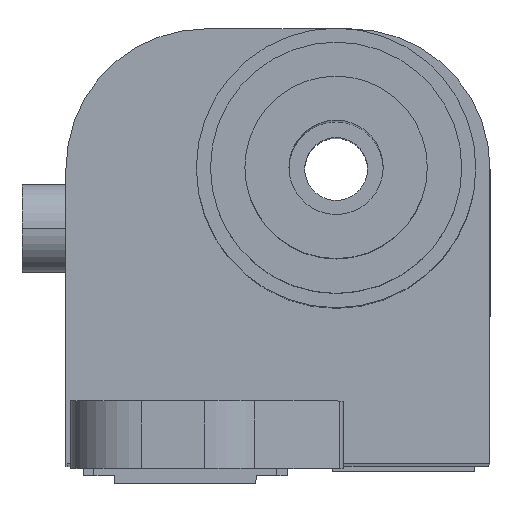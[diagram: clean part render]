
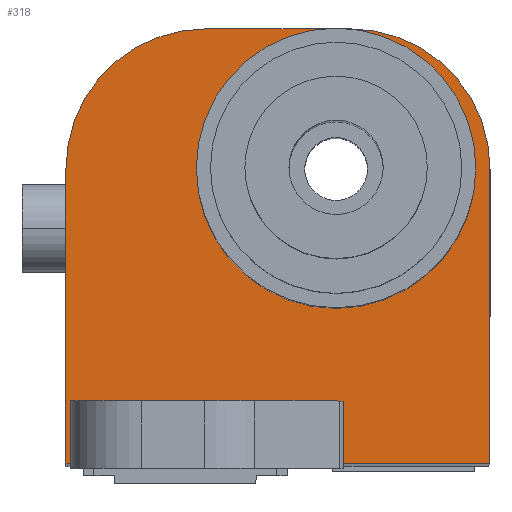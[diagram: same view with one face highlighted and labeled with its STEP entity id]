
A CAD part, top view. The second image highlights one B-rep face of the part: STEP entity #318.
In plain terms, the highlighted planar face has unit normal (0, 0, 1).
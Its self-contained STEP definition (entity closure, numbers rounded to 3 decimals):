
#243 = ORIENTED_EDGE ( 'NONE', *, *, #5301, .T. ) ;
#244 = ORIENTED_EDGE ( 'NONE', *, *, #245, .T. ) ;
#245 = EDGE_CURVE ( 'NONE', #5269, #280, #2197, .T. ) ;
#246 = ORIENTED_EDGE ( 'NONE', *, *, #279, .T. ) ;
#247 = ORIENTED_EDGE ( 'NONE', *, *, #5270, .T. ) ;
#254 = EDGE_CURVE ( 'NONE', #402, #5275, #2184, .T. ) ;
#257 = VERTEX_POINT ( 'NONE', #2176 ) ;
#259 = EDGE_CURVE ( 'NONE', #1552, #257, #2175, .T. ) ;
#279 = EDGE_CURVE ( 'NONE', #280, #281, #2206, .T. ) ;
#280 = VERTEX_POINT ( 'NONE', #2268 ) ;
#281 = VERTEX_POINT ( 'NONE', #2267 ) ;
#318 = ADVANCED_FACE ( 'NONE', ( #2272, #2271 ), #2270, .F. ) ;
#319 = EDGE_LOOP ( 'NONE', ( #320, #322 ) ) ;
#320 = ORIENTED_EDGE ( 'NONE', *, *, #321, .F. ) ;
#321 = EDGE_CURVE ( 'NONE', #1658, #1637, #2333, .T. ) ;
#322 = ORIENTED_EDGE ( 'NONE', *, *, #1657, .F. ) ;
#323 = EDGE_LOOP ( 'NONE', ( #243, #244, #246, #247, #5271, #5272, #5267, #5266, #5265, #5296 ) ) ;
#402 = VERTEX_POINT ( 'NONE', #2462 ) ;
#404 = EDGE_CURVE ( 'NONE', #1398, #402, #2461, .T. ) ;
#1398 = VERTEX_POINT ( 'NONE', #4048 ) ;
#1552 = VERTEX_POINT ( 'NONE', #4348 ) ;
#1554 = EDGE_CURVE ( 'NONE', #1555, #1552, #4347, .T. ) ;
#1555 = VERTEX_POINT ( 'NONE', #4343 ) ;
#1568 = EDGE_CURVE ( 'NONE', #1398, #1571, #4385, .T. ) ;
#1571 = VERTEX_POINT ( 'NONE', #4376 ) ;
#1637 = VERTEX_POINT ( 'NONE', #4506 ) ;
#1657 = EDGE_CURVE ( 'NONE', #1637, #1658, #4539, .T. ) ;
#1658 = VERTEX_POINT ( 'NONE', #4534 ) ;
#2172 = DIRECTION ( 'NONE',  ( 1., 0., 0. ) ) ;
#2173 = VECTOR ( 'NONE', #2172, 1000. ) ;
#2174 = CARTESIAN_POINT ( 'NONE',  ( -17.2, 0., 0. ) ) ;
#2175 = LINE ( 'NONE', #2174, #2173 ) ;
#2176 = CARTESIAN_POINT ( 'NONE',  ( -16.9, 0., 0. ) ) ;
#2181 = DIRECTION ( 'NONE',  ( 1., 0., 0. ) ) ;
#2182 = VECTOR ( 'NONE', #2181, 1000. ) ;
#2183 = CARTESIAN_POINT ( 'NONE',  ( -17.2, 0., 0. ) ) ;
#2184 = LINE ( 'NONE', #2183, #2182 ) ;
#2189 = DIRECTION ( 'NONE',  ( -1., 0., 0. ) ) ;
#2190 = DIRECTION ( 'NONE',  ( 0., 0., 1. ) ) ;
#2191 = CARTESIAN_POINT ( 'NONE',  ( 0.9, 18.8, 0. ) ) ;
#2192 = AXIS2_PLACEMENT_3D ( 'NONE', #2191, #2190, #2189 ) ;
#2197 = CIRCLE ( 'NONE', #2192, 8.9 ) ;
#2203 = DIRECTION ( 'NONE',  ( -1., 0., 0. ) ) ;
#2204 = VECTOR ( 'NONE', #2203, 1000. ) ;
#2205 = CARTESIAN_POINT ( 'NONE',  ( -17.2, 27.7, 0. ) ) ;
#2206 = LINE ( 'NONE', #2205, #2204 ) ;
#2267 = CARTESIAN_POINT ( 'NONE',  ( -8.3, 27.7, 0. ) ) ;
#2268 = CARTESIAN_POINT ( 'NONE',  ( 0.9, 27.7, 0. ) ) ;
#2269 = AXIS2_PLACEMENT_3D ( 'NONE', #2336, #2335, #2334 ) ;
#2270 = PLANE ( 'NONE',  #2269 ) ;
#2271 = FACE_OUTER_BOUND ( 'NONE', #323, .T. ) ;
#2272 = FACE_BOUND ( 'NONE', #319, .T. ) ;
#2329 = DIRECTION ( 'NONE',  ( 1., 0., 0. ) ) ;
#2330 = DIRECTION ( 'NONE',  ( 0., 0., 1. ) ) ;
#2331 = CARTESIAN_POINT ( 'NONE',  ( 0., 18.8, 0. ) ) ;
#2332 = AXIS2_PLACEMENT_3D ( 'NONE', #2331, #2330, #2329 ) ;
#2333 = CIRCLE ( 'NONE', #2332, 7. ) ;
#2334 = DIRECTION ( 'NONE',  ( -1., 0., 0. ) ) ;
#2335 = DIRECTION ( 'NONE',  ( 0., 0., -1. ) ) ;
#2336 = CARTESIAN_POINT ( 'NONE',  ( -17.2, 0., 0. ) ) ;
#2458 = DIRECTION ( 'NONE',  ( 0., -1., 0. ) ) ;
#2459 = VECTOR ( 'NONE', #2458, 1000. ) ;
#2460 = CARTESIAN_POINT ( 'NONE',  ( 0.5, 4., 0. ) ) ;
#2461 = LINE ( 'NONE', #2460, #2459 ) ;
#2462 = CARTESIAN_POINT ( 'NONE',  ( 0.5, 0., 0. ) ) ;
#4048 = CARTESIAN_POINT ( 'NONE',  ( 0.5, 4., 0. ) ) ;
#4343 = CARTESIAN_POINT ( 'NONE',  ( -17.2, 18.8, 0. ) ) ;
#4344 = DIRECTION ( 'NONE',  ( 0., -1., 0. ) ) ;
#4345 = VECTOR ( 'NONE', #4344, 1000. ) ;
#4346 = CARTESIAN_POINT ( 'NONE',  ( -17.2, 0., 0. ) ) ;
#4347 = LINE ( 'NONE', #4346, #4345 ) ;
#4348 = CARTESIAN_POINT ( 'NONE',  ( -17.2, 0., 0. ) ) ;
#4376 = CARTESIAN_POINT ( 'NONE',  ( -16.9, 4., 0. ) ) ;
#4382 = DIRECTION ( 'NONE',  ( -1., 0., 0. ) ) ;
#4383 = VECTOR ( 'NONE', #4382, 1000. ) ;
#4384 = CARTESIAN_POINT ( 'NONE',  ( -16.9, 4., 0. ) ) ;
#4385 = LINE ( 'NONE', #4384, #4383 ) ;
#4506 = CARTESIAN_POINT ( 'NONE',  ( -7., 18.8, 0. ) ) ;
#4534 = CARTESIAN_POINT ( 'NONE',  ( 7., 18.8, 0. ) ) ;
#4535 = DIRECTION ( 'NONE',  ( 1., 0., 0. ) ) ;
#4536 = DIRECTION ( 'NONE',  ( 0., 0., 1. ) ) ;
#4537 = CARTESIAN_POINT ( 'NONE',  ( 0., 18.8, 0. ) ) ;
#4538 = AXIS2_PLACEMENT_3D ( 'NONE', #4537, #4536, #4535 ) ;
#4539 = CIRCLE ( 'NONE', #4538, 7. ) ;
#4859 = CARTESIAN_POINT ( 'NONE',  ( 9.8, 0., 0. ) ) ;
#4860 = DIRECTION ( 'NONE',  ( -1., 0., 0. ) ) ;
#4861 = DIRECTION ( 'NONE',  ( 0., 0., 1. ) ) ;
#4862 = CARTESIAN_POINT ( 'NONE',  ( -8.3, 18.8, 0. ) ) ;
#4863 = AXIS2_PLACEMENT_3D ( 'NONE', #4862, #4861, #4860 ) ;
#4864 = CIRCLE ( 'NONE', #4863, 8.9 ) ;
#4865 = CARTESIAN_POINT ( 'NONE',  ( 9.8, 18.8, 0. ) ) ;
#4866 = DIRECTION ( 'NONE',  ( 0., -1., 0. ) ) ;
#4867 = VECTOR ( 'NONE', #4866, 1000. ) ;
#4868 = CARTESIAN_POINT ( 'NONE',  ( -16.9, 4., 0. ) ) ;
#4869 = LINE ( 'NONE', #4868, #4867 ) ;
#4930 = DIRECTION ( 'NONE',  ( 0., 1., 0. ) ) ;
#4931 = VECTOR ( 'NONE', #4930, 1000. ) ;
#4932 = CARTESIAN_POINT ( 'NONE',  ( 9.8, 0., 0. ) ) ;
#4933 = LINE ( 'NONE', #4932, #4931 ) ;
#5265 = ORIENTED_EDGE ( 'NONE', *, *, #404, .T. ) ;
#5266 = ORIENTED_EDGE ( 'NONE', *, *, #1568, .F. ) ;
#5267 = ORIENTED_EDGE ( 'NONE', *, *, #5268, .F. ) ;
#5268 = EDGE_CURVE ( 'NONE', #1571, #257, #4869, .T. ) ;
#5269 = VERTEX_POINT ( 'NONE', #4865 ) ;
#5270 = EDGE_CURVE ( 'NONE', #281, #1555, #4864, .T. ) ;
#5271 = ORIENTED_EDGE ( 'NONE', *, *, #1554, .T. ) ;
#5272 = ORIENTED_EDGE ( 'NONE', *, *, #259, .T. ) ;
#5275 = VERTEX_POINT ( 'NONE', #4859 ) ;
#5296 = ORIENTED_EDGE ( 'NONE', *, *, #254, .T. ) ;
#5301 = EDGE_CURVE ( 'NONE', #5275, #5269, #4933, .T. ) ;
